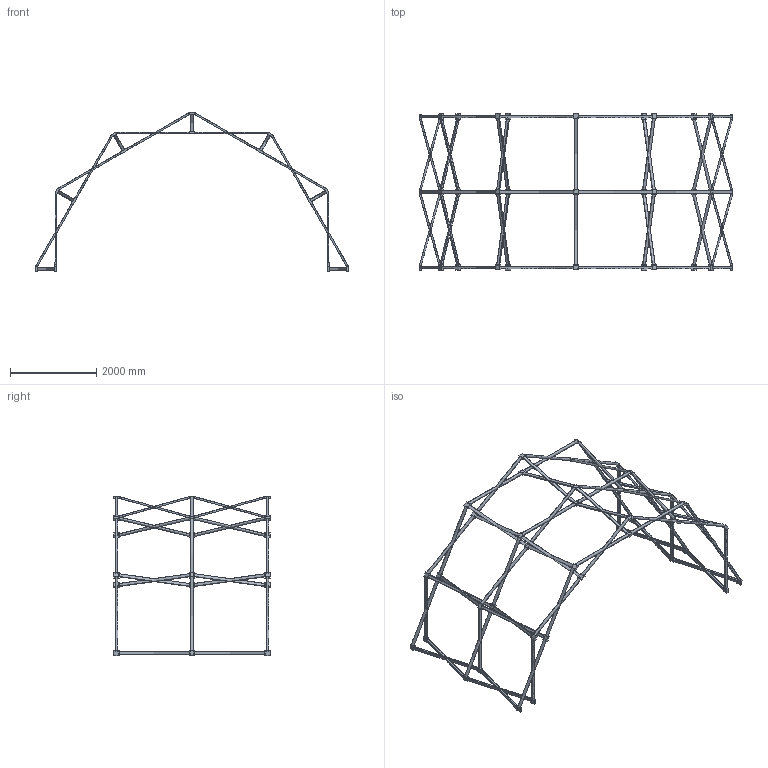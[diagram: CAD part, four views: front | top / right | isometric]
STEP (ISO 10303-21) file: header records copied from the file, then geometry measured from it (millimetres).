
FILE_DESCRIPTION(/* description */ (''),/* implementation_level */ '2;1');
FILE_NAME(/* name */ 'Fastival',/* time_stamp */ '2025-02-19T08:51:54+01:00',/* author */ (''),/* organization */ (''),/* preprocessor_version */ 'ST-DEVELOPER v16.5',/* originating_system */ '',/* authorisation */ '');
FILE_SCHEMA (('AUTOMOTIVE_DESIGN'));
Length unit declared in the file: metre
Products named in the file (1): Document
Bounding box: 7261.67 x 3619.22 x 3690.84 mm (x, y, z)
Volume: 30240000 mm3; surface area: 23840134.7 mm2
Topology: 42 solids, 106 shells, 508 faces, 1400 edges, 1104 vertices
Faces by surface type: plane 380, bspline 128
Entity records: 17456 total; most frequent: CARTESIAN_POINT 8383, ORIENTED_EDGE 2288, EDGE_CURVE 1400, VERTEX_POINT 1104, B_SPLINE_CURVE_WITH_KNOTS 1016, EDGE_LOOP 636, ADVANCED_FACE 508, FACE_OUTER_BOUND 508
